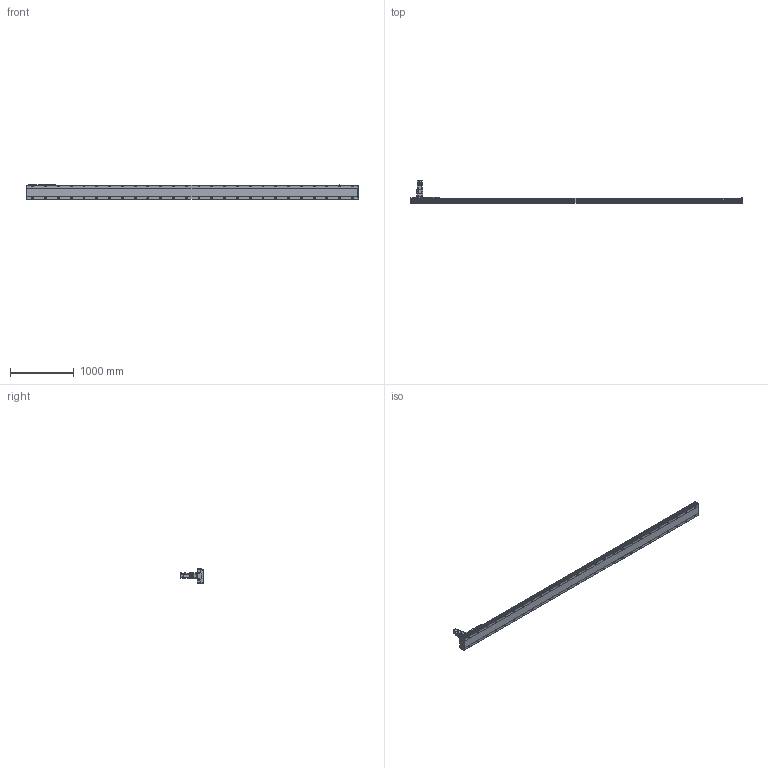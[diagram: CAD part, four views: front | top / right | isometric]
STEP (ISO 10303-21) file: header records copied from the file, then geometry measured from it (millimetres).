
FILE_DESCRIPTION(/* description */ ('STEP AP214'),/* implementation_level */ '2;1');
FILE_NAME(/* name */ 'SHS22A-L13-S4700-BC-T75-C1-N(0)',/* time_stamp */ '2022-06-15T02:29:01+02:00',/* author */ ('License CC BY-ND 4.0'),/* organization */ ('CADENAS'),/* preprocessor_version */ 'ST-DEVELOPER v18.102',/* originating_system */ 'PARTsolutions',/* authorisation */ ' ');
FILE_SCHEMA (('AUTOMOTIVE_DESIGN {1 0 10303 214 3 1 1}'));
Length unit declared in the file: millimetre
Products named in the file (7): SHS22A-L13-S4700-BC-T75-C1-N(0); PSC140-sensor; SHS22A-S4700_body2; T75-p1; SHS22A-S4700_body3; SHS22A-S4700_slider; SHS22A-L13-S4700-BC-T75-C1(0)_body
Assembly tree (13 placements, depth 2):
  SHS22A-L13-S4700-BC-T75-C1-N(0)
    PSC140-sensor  x3
    SHS22A-S4700_body2  x6
    T75-p1
    SHS22A-S4700_body3
    SHS22A-S4700_slider
    SHS22A-L13-S4700-BC-T75-C1(0)_body
Bounding box: 5194 x 350.8 x 238.4 mm (x, y, z)
Volume: 54922534.4 mm3; surface area: 5584395.1 mm2
Topology: 13 solids, 13 shells, 2013 faces, 5143 edges, 3364 vertices
Faces by surface type: plane 1384, cylinder 503, cone 117, torus 9
Full cylindrical faces by diameter (mm): 2.8 x3, 4.2 x2, 4.6 x3, 4.917 x4, 5 x4, 5.6 x24, 6 x31, 6.6 x24, 6.647 x8, 6.8 x9, 7.75 x6, 8 x3, 8.376 x52, 8.5 x52, 10 x4, 11 x4, 12 x24, 14 x52, 22 x1, 24.1 x1, 28 x1, 28.2 x1, 28.8 x1, 48.542 x1, 68 x1, 70 x1, 78 x1, 80 x2
Entity records: 34715 total; most frequent: CARTESIAN_POINT 6329, DIRECTION 5891, ORIENTED_EDGE 5196, EDGE_CURVE 2598, AXIS2_PLACEMENT_3D 2148, FACE_BOUND 1916, EDGE_LOOP 1915, VERTEX_POINT 1902
